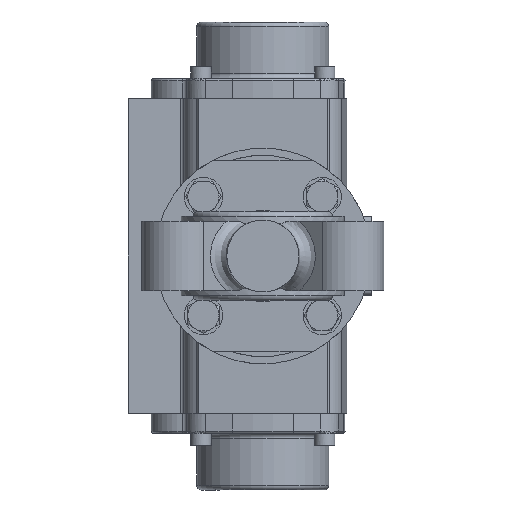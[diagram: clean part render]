
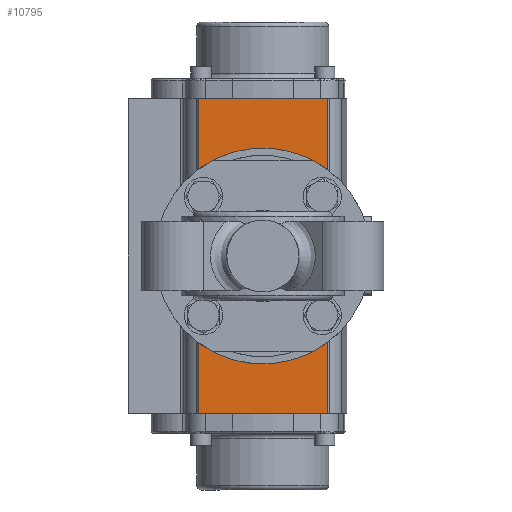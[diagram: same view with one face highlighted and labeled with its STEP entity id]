
A CAD part, front view. The second image highlights one B-rep face of the part: STEP entity #10795.
In plain terms, the highlighted planar face has unit normal (0, -1, 0).
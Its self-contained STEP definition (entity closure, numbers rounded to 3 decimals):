
#49 = CARTESIAN_POINT ( 'NONE',  ( 0., -45., 0. ) ) ;
#72 = CIRCLE ( 'NONE', #928, 2.5 ) ;
#90 = EDGE_CURVE ( 'NONE', #4279, #23258, #6208, .T. ) ;
#391 = ORIENTED_EDGE ( 'NONE', *, *, #14779, .F. ) ;
#836 = CARTESIAN_POINT ( 'NONE',  ( -17.678, -45., -20.178 ) ) ;
#849 = ORIENTED_EDGE ( 'NONE', *, *, #14522, .F. ) ;
#876 = DIRECTION ( 'NONE',  ( 0., 0., -1. ) ) ;
#928 = AXIS2_PLACEMENT_3D ( 'NONE', #4905, #13383, #5041 ) ;
#929 = CIRCLE ( 'NONE', #8203, 2.5 ) ;
#1809 = DIRECTION ( 'NONE',  ( 0., -1., 0. ) ) ;
#1908 = EDGE_LOOP ( 'NONE', ( #19953, #15346 ) ) ;
#1993 = DIRECTION ( 'NONE',  ( 0., 1., 0. ) ) ;
#2022 = ORIENTED_EDGE ( 'NONE', *, *, #7643, .F. ) ;
#2590 = DIRECTION ( 'NONE',  ( 0., -1., 0. ) ) ;
#2916 = VECTOR ( 'NONE', #19546, 1000. ) ;
#3126 = ORIENTED_EDGE ( 'NONE', *, *, #8920, .F. ) ;
#3353 = VECTOR ( 'NONE', #13358, 1000. ) ;
#3434 = CARTESIAN_POINT ( 'NONE',  ( 17.678, -45., -17.678 ) ) ;
#3491 = EDGE_CURVE ( 'NONE', #11403, #14836, #16714, .T. ) ;
#3575 = CARTESIAN_POINT ( 'NONE',  ( 65.45, -45., -27. ) ) ;
#3639 = EDGE_CURVE ( 'NONE', #23577, #23927, #9287, .T. ) ;
#3640 = ORIENTED_EDGE ( 'NONE', *, *, #3639, .T. ) ;
#3651 = LINE ( 'NONE', #5151, #3353 ) ;
#3848 = LINE ( 'NONE', #3575, #5175 ) ;
#4225 = VERTEX_POINT ( 'NONE', #14396 ) ;
#4279 = VERTEX_POINT ( 'NONE', #20696 ) ;
#4844 = AXIS2_PLACEMENT_3D ( 'NONE', #19444, #21708, #876 ) ;
#4867 = VECTOR ( 'NONE', #22322, 1000. ) ;
#4905 = CARTESIAN_POINT ( 'NONE',  ( -17.678, -45., 17.678 ) ) ;
#5041 = DIRECTION ( 'NONE',  ( 0., 0., -1. ) ) ;
#5125 = DIRECTION ( 'NONE',  ( 0., 0., -1. ) ) ;
#5151 = CARTESIAN_POINT ( 'NONE',  ( -65.45, -45., 27. ) ) ;
#5175 = VECTOR ( 'NONE', #26317, 1000. ) ;
#5874 = CARTESIAN_POINT ( 'NONE',  ( 65.45, -45., 27. ) ) ;
#5990 = VERTEX_POINT ( 'NONE', #8631 ) ;
#6023 = AXIS2_PLACEMENT_3D ( 'NONE', #14880, #17019, #17159 ) ;
#6076 = EDGE_LOOP ( 'NONE', ( #24350, #3126 ) ) ;
#6208 = CIRCLE ( 'NONE', #10913, 2.5 ) ;
#6230 = EDGE_CURVE ( 'NONE', #13361, #4225, #21932, .T. ) ;
#6363 = AXIS2_PLACEMENT_3D ( 'NONE', #14873, #2590, #6616 ) ;
#6616 = DIRECTION ( 'NONE',  ( 0., 0., -1. ) ) ;
#6774 = ORIENTED_EDGE ( 'NONE', *, *, #3491, .F. ) ;
#7200 = CARTESIAN_POINT ( 'NONE',  ( 17.678, -45., 17.678 ) ) ;
#7207 = EDGE_LOOP ( 'NONE', ( #6774, #391 ) ) ;
#7377 = CARTESIAN_POINT ( 'NONE',  ( 17.678, -45., -17.678 ) ) ;
#7643 = EDGE_CURVE ( 'NONE', #5990, #25792, #929, .T. ) ;
#7759 = PLANE ( 'NONE',  #19592 ) ;
#7824 = CARTESIAN_POINT ( 'NONE',  ( 65.45, -45., -27. ) ) ;
#8029 = FACE_BOUND ( 'NONE', #21777, .T. ) ;
#8203 = AXIS2_PLACEMENT_3D ( 'NONE', #7200, #18252, #11904 ) ;
#8631 = CARTESIAN_POINT ( 'NONE',  ( 17.678, -45., 20.178 ) ) ;
#8920 = EDGE_CURVE ( 'NONE', #9980, #25713, #20761, .T. ) ;
#8993 = VERTEX_POINT ( 'NONE', #7824 ) ;
#9287 = LINE ( 'NONE', #19294, #2916 ) ;
#9531 = DIRECTION ( 'NONE',  ( 0., -1., 0. ) ) ;
#9535 = CARTESIAN_POINT ( 'NONE',  ( 17.678, -45., 15.178 ) ) ;
#9553 = CARTESIAN_POINT ( 'NONE',  ( 17.678, -45., -15.178 ) ) ;
#9879 = VERTEX_POINT ( 'NONE', #13783 ) ;
#9980 = VERTEX_POINT ( 'NONE', #26403 ) ;
#10191 = ORIENTED_EDGE ( 'NONE', *, *, #16336, .F. ) ;
#10303 = FACE_BOUND ( 'NONE', #7207, .T. ) ;
#10362 = CIRCLE ( 'NONE', #25435, 2.5 ) ;
#10795 = ADVANCED_FACE ( 'NONE', ( #8029, #14390, #10303, #26338, #18565, #20427 ), #7759, .F. ) ;
#10913 = AXIS2_PLACEMENT_3D ( 'NONE', #3434, #12154, #20387 ) ;
#11403 = VERTEX_POINT ( 'NONE', #15842 ) ;
#11572 = ORIENTED_EDGE ( 'NONE', *, *, #17137, .F. ) ;
#11819 = LINE ( 'NONE', #12363, #4867 ) ;
#11894 = ORIENTED_EDGE ( 'NONE', *, *, #90, .F. ) ;
#11904 = DIRECTION ( 'NONE',  ( 0., 0., -1. ) ) ;
#12061 = CARTESIAN_POINT ( 'NONE',  ( 65.45, -45., 27. ) ) ;
#12154 = DIRECTION ( 'NONE',  ( 0., -1., 0. ) ) ;
#12363 = CARTESIAN_POINT ( 'NONE',  ( 65.45, -45., 27. ) ) ;
#13358 = DIRECTION ( 'NONE',  ( 0., 0., -1. ) ) ;
#13361 = VERTEX_POINT ( 'NONE', #24717 ) ;
#13383 = DIRECTION ( 'NONE',  ( 0., -1., 0. ) ) ;
#13622 = CARTESIAN_POINT ( 'NONE',  ( 0., -45., 0. ) ) ;
#13718 = ORIENTED_EDGE ( 'NONE', *, *, #20656, .T. ) ;
#13783 = CARTESIAN_POINT ( 'NONE',  ( -65.45, -45., -27. ) ) ;
#14390 = FACE_BOUND ( 'NONE', #6076, .T. ) ;
#14396 = CARTESIAN_POINT ( 'NONE',  ( 0., -45., 15. ) ) ;
#14402 = DIRECTION ( 'NONE',  ( 0., 0., 1. ) ) ;
#14476 = DIRECTION ( 'NONE',  ( 0., 0., 1. ) ) ;
#14522 = EDGE_CURVE ( 'NONE', #8993, #9879, #3848, .T. ) ;
#14779 = EDGE_CURVE ( 'NONE', #14836, #11403, #72, .T. ) ;
#14836 = VERTEX_POINT ( 'NONE', #17590 ) ;
#14873 = CARTESIAN_POINT ( 'NONE',  ( -17.678, -45., 17.678 ) ) ;
#14880 = CARTESIAN_POINT ( 'NONE',  ( 17.678, -45., 17.678 ) ) ;
#14952 = EDGE_CURVE ( 'NONE', #25713, #9980, #10362, .T. ) ;
#15132 = EDGE_CURVE ( 'NONE', #4225, #13361, #19855, .T. ) ;
#15346 = ORIENTED_EDGE ( 'NONE', *, *, #6230, .F. ) ;
#15842 = CARTESIAN_POINT ( 'NONE',  ( -17.678, -45., 15.178 ) ) ;
#15976 = CARTESIAN_POINT ( 'NONE',  ( -17.678, -45., -17.678 ) ) ;
#16336 = EDGE_CURVE ( 'NONE', #23577, #8993, #11819, .T. ) ;
#16714 = CIRCLE ( 'NONE', #6363, 2.5 ) ;
#17019 = DIRECTION ( 'NONE',  ( 0., -1., 0. ) ) ;
#17137 = EDGE_CURVE ( 'NONE', #23258, #4279, #18284, .T. ) ;
#17159 = DIRECTION ( 'NONE',  ( 0., 0., -1. ) ) ;
#17590 = CARTESIAN_POINT ( 'NONE',  ( -17.678, -45., 20.178 ) ) ;
#18252 = DIRECTION ( 'NONE',  ( 0., -1., 0. ) ) ;
#18284 = CIRCLE ( 'NONE', #23831, 2.5 ) ;
#18529 = AXIS2_PLACEMENT_3D ( 'NONE', #13622, #23707, #14402 ) ;
#18565 = FACE_BOUND ( 'NONE', #1908, .T. ) ;
#18866 = EDGE_LOOP ( 'NONE', ( #13718, #849, #10191, #3640 ) ) ;
#19294 = CARTESIAN_POINT ( 'NONE',  ( 65.45, -45., 27. ) ) ;
#19416 = AXIS2_PLACEMENT_3D ( 'NONE', #49, #25059, #14476 ) ;
#19444 = CARTESIAN_POINT ( 'NONE',  ( -17.678, -45., -17.678 ) ) ;
#19546 = DIRECTION ( 'NONE',  ( -1., 0., 0. ) ) ;
#19592 = AXIS2_PLACEMENT_3D ( 'NONE', #12061, #1993, #24575 ) ;
#19855 = CIRCLE ( 'NONE', #19416, 15. ) ;
#19953 = ORIENTED_EDGE ( 'NONE', *, *, #15132, .F. ) ;
#20387 = DIRECTION ( 'NONE',  ( 0., 0., -1. ) ) ;
#20427 = FACE_OUTER_BOUND ( 'NONE', #18866, .T. ) ;
#20656 = EDGE_CURVE ( 'NONE', #23927, #9879, #3651, .T. ) ;
#20696 = CARTESIAN_POINT ( 'NONE',  ( 17.678, -45., -20.178 ) ) ;
#20761 = CIRCLE ( 'NONE', #4844, 2.5 ) ;
#21708 = DIRECTION ( 'NONE',  ( 0., -1., 0. ) ) ;
#21777 = EDGE_LOOP ( 'NONE', ( #11894, #11572 ) ) ;
#21932 = CIRCLE ( 'NONE', #18529, 15. ) ;
#22219 = EDGE_LOOP ( 'NONE', ( #23057, #2022 ) ) ;
#22322 = DIRECTION ( 'NONE',  ( 0., 0., -1. ) ) ;
#23026 = EDGE_CURVE ( 'NONE', #25792, #5990, #23644, .T. ) ;
#23057 = ORIENTED_EDGE ( 'NONE', *, *, #23026, .F. ) ;
#23258 = VERTEX_POINT ( 'NONE', #9553 ) ;
#23577 = VERTEX_POINT ( 'NONE', #5874 ) ;
#23644 = CIRCLE ( 'NONE', #6023, 2.5 ) ;
#23707 = DIRECTION ( 'NONE',  ( 0., -1., 0. ) ) ;
#23831 = AXIS2_PLACEMENT_3D ( 'NONE', #7377, #9531, #5125 ) ;
#23927 = VERTEX_POINT ( 'NONE', #25894 ) ;
#24135 = DIRECTION ( 'NONE',  ( 0., 0., -1. ) ) ;
#24350 = ORIENTED_EDGE ( 'NONE', *, *, #14952, .F. ) ;
#24575 = DIRECTION ( 'NONE',  ( 0., 0., 1. ) ) ;
#24717 = CARTESIAN_POINT ( 'NONE',  ( 0., -45., -15. ) ) ;
#25059 = DIRECTION ( 'NONE',  ( 0., -1., 0. ) ) ;
#25435 = AXIS2_PLACEMENT_3D ( 'NONE', #15976, #1809, #24135 ) ;
#25713 = VERTEX_POINT ( 'NONE', #836 ) ;
#25792 = VERTEX_POINT ( 'NONE', #9535 ) ;
#25894 = CARTESIAN_POINT ( 'NONE',  ( -65.45, -45., 27. ) ) ;
#26317 = DIRECTION ( 'NONE',  ( -1., 0., 0. ) ) ;
#26338 = FACE_BOUND ( 'NONE', #22219, .T. ) ;
#26403 = CARTESIAN_POINT ( 'NONE',  ( -17.678, -45., -15.178 ) ) ;
